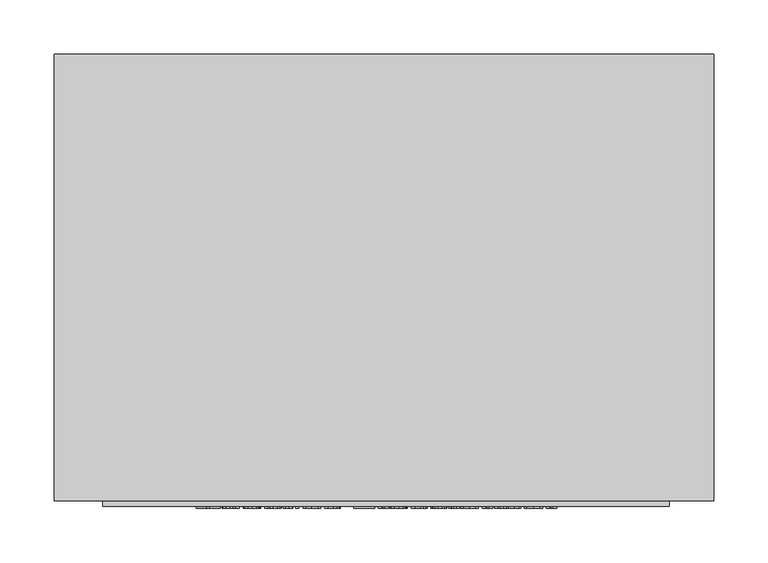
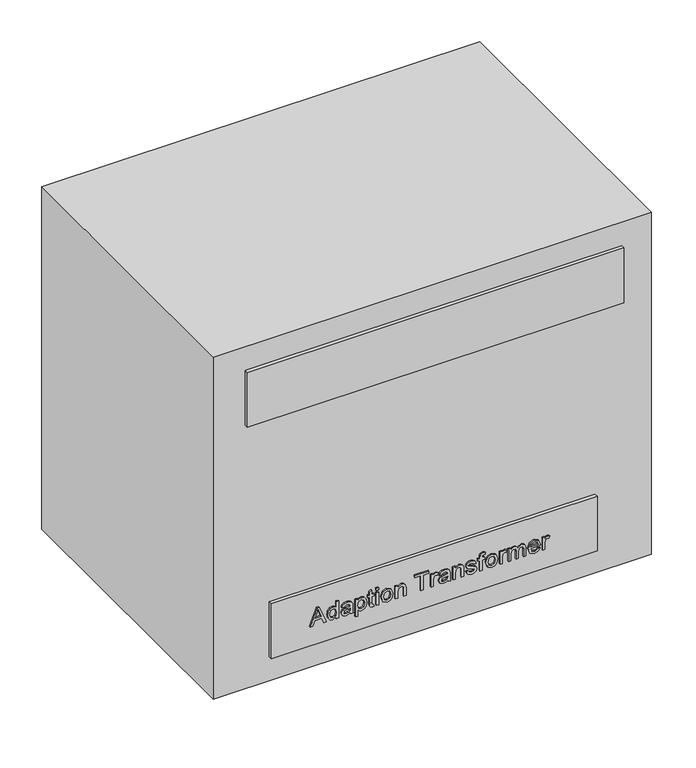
"""IFC4 building model written with IfcOpenShell, lengths in millimetres: proxy geometry, BIMHealth-Adaption_Transformer-LOD2A-v1 : BIMHealth-Adaption_Transformer-LOD2A-v1."""

from ifc_helpers import new_model, si_unit, point, frame, frame_2d, origin, origin_with_axes, place, context, project, spatial, polyline, circle_curve, trimmed, segment, composite_curve, outline, extrude, source, transform, mapped, element, save


def generic_models_28b9f46c(model_context):
    return source(origin(), model_context, "Body", "SweptSolid", [
        extrude(outline(polyline([(99.0474978, -172.4516852), (99.0474978, -169.2064929), (106.7398055, -166.3939929), (106.7398055, -156.2497621), (99.0474978, -153.4372621), (99.0474978, -150.1860602), (123.6628824, -160.0057718), (123.6628824, -162.6259641), (99.0474978, -172.4516852)]), holes=[polyline([(109.8167286, -165.2641852), (116.3972574, -162.8543294), (120.5859594, -161.3218775), (115.8684113, -159.5971179), (109.8167286, -157.3735602), (109.8167286, -165.2641852)])]), frame((0.0, -212.0, 0.0), z_axis=(0.0, 1.0, 0.0), x_axis=(0.0, 0.0, 1.0)), (0.0, 0.0, 1.0), 2.0),
        extrude(outline(polyline([(99.0474978, -136.1295698), (99.0474978, -133.0526468), (123.6628824, -133.0526468), (123.6628824, -136.1295698), (114.4922094, -136.1295698), (116.6706949, -138.1548102), (117.5090363, -140.9913487), (116.3371613, -144.9186323), (112.9657671, -147.5568535), (108.0679305, -148.4372621), (103.1730988, -147.4817333), (99.8527863, -144.7894256), (98.6628824, -140.9793294), (101.9501421, -136.1295698), (99.0474978, -136.1295698)]), holes=[polyline([(108.0799497, -145.3603391), (112.9026661, -144.0622621), (114.4321132, -140.8230794), (112.8395651, -137.4847381), (107.8455747, -136.1295698), (103.2452142, -137.4606996), (101.7398055, -140.6968775), (103.3173296, -143.9721179), (108.0799497, -145.3603391)])]), frame((0.0, -212.0, 0.0), z_axis=(0.0, 1.0, 0.0), x_axis=(0.0, 0.0, 1.0)), (0.0, 0.0, 1.0), 2.0),
        extrude(outline(polyline([(101.3551901, -116.8988006), (99.0474978, -116.1295698), (99.0474978, -113.0526468), (101.6346372, -113.6656275), (106.9801901, -113.8218775), (110.8083151, -113.8218775), (113.5006228, -113.9721179), (115.5889642, -114.9156275), (116.9621613, -117.0219977), (117.5090363, -120.7509641), (116.8900459, -124.8104593), (115.1292286, -127.4907477), (112.1244209, -128.8218775), (111.7398055, -125.7449544), (113.8401661, -124.2605794), (114.4321132, -121.1475987), (113.5426901, -117.7461564), (110.5859594, -116.9168294), (109.5282671, -122.2533679), (109.0655267, -124.9156275), (108.0559113, -127.0700746), (106.2890844, -128.6175506), (103.8551901, -129.2064929), (100.123219, -127.6469977), (98.6628824, -123.1788487), (99.2698536, -119.8825746), (101.3551901, -116.8988006)]), holes=[polyline([(107.0733392, -116.907815), (104.2578344, -117.4036083), (102.4759834, -119.4108198), (101.7398055, -122.5238006), (102.4068728, -125.2131035), (106.0667286, -124.5099785), (106.5655267, -121.8627429), (107.0733392, -116.907815)])]), frame((0.0, -212.0, 0.0), z_axis=(0.0, 1.0, 0.0), x_axis=(0.0, 0.0, 1.0)), (0.0, 0.0, 1.0), 2.0),
        extrude(outline(polyline([(92.1244209, -109.5911083), (92.1244209, -106.5141852), (101.451344, -106.5141852), (99.4531469, -104.564065), (98.6628824, -101.8867814), (99.8437719, -97.9955554), (103.2392046, -95.1770458), (108.2241805, -94.2064929), (112.9657671, -95.0658679), (116.3191324, -97.6139448), (117.5090363, -101.5141852), (116.6586757, -104.3867814), (114.107594, -106.5141852), (117.1244209, -106.5141852), (117.1244209, -109.5911083), (92.1244209, -109.5911083)]), holes=[polyline([(107.9417286, -106.5141852), (112.7704546, -105.0929112), (114.4321132, -101.8266852), (112.8696132, -98.6235602), (108.170094, -97.283416), (103.3083151, -98.6566131), (101.7398055, -101.9528871), (103.2542286, -105.1830554), (107.9417286, -106.5141852)])]), frame((0.0, -212.0, 0.0), z_axis=(0.0, 1.0, 0.0), x_axis=(0.0, 0.0, 1.0)), (0.0, 0.0, 1.0), 2.0),
        extrude(outline(polyline([(102.0613199, -85.6638246), (104.0955747, -87.283416), (114.0474978, -87.283416), (114.0474978, -84.2064929), (117.1244209, -84.2064929), (117.1244209, -87.283416), (123.326344, -87.283416), (121.5174497, -90.3603391), (117.1244209, -90.3603391), (117.1244209, -92.6680314), (114.0474978, -92.6680314), (114.0474978, -90.3603391), (104.0054305, -90.3603391), (100.513844, -89.9877429), (99.1736997, -88.7016852), (98.6628824, -86.1235602), (98.9573536, -83.8218775), (102.0613199, -85.6638246)])), frame((0.0, -212.0, 0.0), z_axis=(0.0, 1.0, 0.0), x_axis=(0.0, 0.0, 1.0)), (0.0, 0.0, 1.0), 2.0),
        extrude(outline(polyline([(-78.0526468, -212.0), (-81.1295698, -212.0), (-81.1295698, -210.0), (-78.0526468, -210.0), (-78.0526468, -212.0)])), frame((0.0, 0.0, 120.5859594), z_axis=(0.0, 0.0, 1.0), x_axis=(1.0, 0.0, 0.0)), (0.0, 0.0, 1.0), 3.0769231),
        extrude(outline(polyline([(-78.0526468, -212.0), (-81.1295698, -212.0), (-81.1295698, -210.0), (-78.0526468, -210.0), (-78.0526468, -212.0)])), frame((0.0, 0.0, 99.0474978), z_axis=(0.0, 0.0, 1.0), x_axis=(1.0, 0.0, 0.0)), (0.0, 0.0, 1.0), 18.0769231),
        extrude(outline(polyline([(108.0859594, -74.2064929), (101.0907671, -71.9739208), (98.6628824, -66.1235602), (99.7656469, -61.9558919), (102.8636036, -59.0502429), (108.3383632, -58.0526468), (115.0721372, -60.3092573), (117.5090363, -66.1235602), (115.5078344, -71.5442333), (108.0859594, -74.2064929)]), holes=[polyline([(108.091969, -71.1295698), (112.8545892, -69.705291), (114.4321132, -66.1235602), (112.8485796, -62.5628631), (108.1881228, -61.1295698), (103.3323536, -62.5538487), (101.7398055, -66.1235602), (103.3233392, -69.705291), (108.091969, -71.1295698)])]), frame((0.0, -212.0, 0.0), z_axis=(0.0, 1.0, 0.0), x_axis=(0.0, 0.0, 1.0)), (0.0, 0.0, 1.0), 2.0),
        extrude(outline(polyline([(99.0474978, -54.5911083), (99.0474978, -51.5141852), (108.638844, -51.5141852), (113.2241805, -50.11094), (114.4321132, -46.7725987), (113.8942526, -44.6602189), (112.4549497, -43.4072141), (109.732594, -43.0526468), (99.0474978, -43.0526468), (99.0474978, -39.9757237), (110.1472574, -39.9757237), (113.1220171, -40.1379833), (115.3846372, -41.0604593), (116.9230988, -43.0436323), (117.5090363, -45.9492814), (114.6003824, -51.5141852), (117.1244209, -51.5141852), (117.1244209, -54.5911083), (99.0474978, -54.5911083)])), frame((0.0, -212.0, 0.0), z_axis=(0.0, 1.0, 0.0), x_axis=(0.0, 0.0, 1.0)), (0.0, 0.0, 1.0), 2.0),
        extrude(outline(polyline([(99.0474978, -19.5911083), (99.0474978, -16.5141852), (120.5859594, -16.5141852), (120.5859594, -8.4372621), (123.6628824, -8.4372621), (123.6628824, -27.6680314), (120.5859594, -27.6680314), (120.5859594, -19.5911083), (99.0474978, -19.5911083)])), frame((0.0, -212.0, 0.0), z_axis=(0.0, 1.0, 0.0), x_axis=(0.0, 0.0, 1.0)), (0.0, 0.0, 1.0), 2.0),
        extrude(outline(polyline([(99.0474978, -5.3603391), (99.0474978, -2.283416), (108.5486997, -2.283416), (112.1424497, -1.7846179), (113.8251421, -0.6758439), (114.4321132, 1.0639398), (113.8011036, 3.2274013), (116.5595171, 4.2550456), (117.5090363, 1.1661032), (116.9140844, -0.7569737), (114.4501421, -2.6680314), (117.1244209, -2.6680314), (117.1244209, -5.3603391), (99.0474978, -5.3603391)])), frame((0.0, -212.0, 0.0), z_axis=(0.0, 1.0, 0.0), x_axis=(0.0, 0.0, 1.0)), (0.0, 0.0, 1.0), 2.0),
        extrude(outline(polyline([(101.3551901, 17.716584), (99.0474978, 18.4858148), (99.0474978, 21.5627379), (101.6346372, 20.9497571), (106.9801901, 20.7935071), (110.8083151, 20.7935071), (113.5006228, 20.6432667), (115.5889642, 19.6997571), (116.9621613, 17.5933869), (117.5090363, 13.8644206), (116.8900459, 9.8049254), (115.1292286, 7.1246369), (112.1244209, 5.7935071), (111.7398055, 8.8704302), (113.8401661, 10.3548052), (114.4321132, 13.4677859), (113.5426901, 16.8692282), (110.5859594, 17.6985552), (109.5282671, 12.3620167), (109.0655267, 9.6997571), (108.0559113, 7.54531), (106.2890844, 5.997834), (103.8551901, 5.4088917), (100.123219, 6.9683869), (98.6628824, 11.4365359), (99.2698536, 14.73281), (101.3551901, 17.716584)]), holes=[polyline([(107.0733392, 17.7075696), (104.2578344, 17.2117763), (102.4759834, 15.2045648), (101.7398055, 12.091584), (102.4068728, 9.4022811), (106.0667286, 10.1054061), (106.5655267, 12.7526417), (107.0733392, 17.7075696)])]), frame((0.0, -212.0, 0.0), z_axis=(0.0, 1.0, 0.0), x_axis=(0.0, 0.0, 1.0)), (0.0, 0.0, 1.0), 2.0),
        extrude(outline(polyline([(99.0474978, 25.0242763), (99.0474978, 28.1011994), (108.638844, 28.1011994), (113.2241805, 29.5044446), (114.4321132, 32.8427859), (113.8942526, 34.9551657), (112.4549497, 36.2081706), (109.732594, 36.5627379), (99.0474978, 36.5627379), (99.0474978, 39.6396609), (110.1472574, 39.6396609), (113.1220171, 39.4774013), (115.3846372, 38.5549254), (116.9230988, 36.5717523), (117.5090363, 33.6661032), (114.6003824, 28.1011994), (117.1244209, 28.1011994), (117.1244209, 25.0242763), (99.0474978, 25.0242763)])), frame((0.0, -212.0, 0.0), z_axis=(0.0, 1.0, 0.0), x_axis=(0.0, 0.0, 1.0)), (0.0, 0.0, 1.0), 2.0),
        extrude(outline(polyline([(104.4321132, 42.716584), (100.1172094, 45.0723532), (98.6628824, 50.4389398), (99.4170892, 54.2490359), (101.5535074, 56.8241561), (104.498219, 57.716584), (107.1724978, 56.9563677), (108.8131228, 54.8590119), (110.2614401, 50.3427859), (112.4910074, 46.1781225), (113.8491805, 47.0615359), (114.4321132, 50.0062475), (113.8221372, 52.7135792), (112.1244209, 53.8704302), (112.5090363, 56.9473532), (115.2704546, 55.8896609), (116.9050699, 53.5098532), (117.5090363, 49.7658629), (117.1334353, 47.1186273), (116.2229786, 45.1624975), (114.4711757, 43.654084), (112.1785074, 43.1011994), (109.6965363, 43.7893004), (107.9387238, 45.8115359), (106.4333151, 50.4449494), (105.5559113, 53.6120167), (104.1736997, 54.6396609), (102.466969, 53.6180263), (101.7398055, 50.4810071), (102.5330747, 47.2177859), (104.8167286, 45.7935071), (104.4321132, 42.716584)])), frame((0.0, -212.0, 0.0), z_axis=(0.0, 1.0, 0.0), x_axis=(0.0, 0.0, 1.0)), (0.0, 0.0, 1.0), 2.0),
        extrude(outline(polyline([(99.0474978, 61.9473532), (99.0474978, 65.0242763), (114.0474978, 65.0242763), (114.0474978, 68.4858148), (117.1244209, 68.4858148), (118.5547094, 65.0242763), (120.4597574, 65.592185), (120.9705747, 67.5302859), (120.826344, 69.3031225), (123.7109594, 69.7538436), (124.0474978, 66.9473532), (123.3443728, 63.8463917), (121.5114401, 62.2718725), (118.9453344, 61.9473532), (117.1244209, 61.9473532), (117.1244209, 59.2550456), (114.0474978, 59.2550456), (114.0474978, 61.9473532), (99.0474978, 61.9473532)])), frame((0.0, -212.0, 0.0), z_axis=(0.0, 1.0, 0.0), x_axis=(0.0, 0.0, 1.0)), (0.0, 0.0, 1.0), 2.0),
        extrude(outline(polyline([(108.0859594, 70.4088917), (101.0907671, 72.6414638), (98.6628824, 78.4918244), (99.7656469, 82.6594927), (102.8636036, 85.5651417), (108.3383632, 86.5627379), (115.0721372, 84.3061273), (117.5090363, 78.4918244), (115.5078344, 73.0711513), (108.0859594, 70.4088917)]), holes=[polyline([(108.091969, 73.4858148), (112.8545892, 74.9100936), (114.4321132, 78.4918244), (112.8485796, 82.0525215), (108.1881228, 83.4858148), (103.3323536, 82.0615359), (101.7398055, 78.4918244), (103.3233392, 74.9100936), (108.091969, 73.4858148)])]), frame((0.0, -212.0, 0.0), z_axis=(0.0, 1.0, 0.0), x_axis=(0.0, 0.0, 1.0)), (0.0, 0.0, 1.0), 2.0),
        extrude(outline(polyline([(99.0474978, 90.0242763), (99.0474978, 93.1011994), (108.5486997, 93.1011994), (112.1424497, 93.5999975), (113.8251421, 94.7087715), (114.4321132, 96.4485552), (113.8011036, 98.6120167), (116.5595171, 99.6396609), (117.5090363, 96.5507186), (116.9140844, 94.6276417), (114.4501421, 92.716584), (117.1244209, 92.716584), (117.1244209, 90.0242763), (99.0474978, 90.0242763)])), frame((0.0, -212.0, 0.0), z_axis=(0.0, 1.0, 0.0), x_axis=(0.0, 0.0, 1.0)), (0.0, 0.0, 1.0), 2.0),
        extrude(outline(polyline([(99.0474978, 101.5627379), (99.0474978, 104.6396609), (108.1640844, 104.6396609), (111.8359594, 105.1084109), (113.7710555, 106.622834), (114.4321132, 108.9004782), (113.4405267, 111.2352138), (110.4597574, 111.9473532), (99.0474978, 111.9473532), (99.0474978, 115.0242763), (109.2518247, 115.0242763), (113.2001421, 116.2292042), (114.4321132, 119.2550456), (113.951344, 121.0128581), (112.6863199, 122.0465119), (110.1172094, 122.3319686), (99.0474978, 122.3319686), (99.0474978, 125.4088917), (111.4393247, 125.4088917), (116.0216565, 123.9996369), (117.5090363, 119.9761994), (113.9333151, 114.5435071), (116.5685315, 112.8487956), (117.5090363, 109.7658629), (116.5865603, 106.7550456), (114.1496613, 104.6396609), (117.1244209, 104.6396609), (117.1244209, 101.5627379), (99.0474978, 101.5627379)])), frame((0.0, -212.0, 0.0), z_axis=(0.0, 1.0, 0.0), x_axis=(0.0, 0.0, 1.0)), (0.0, 0.0, 1.0), 2.0),
        extrude(outline(polyline([(104.4321132, 142.6805263), (102.3828344, 140.6973532), (101.7398055, 137.6805263), (103.1280267, 133.717185), (107.1244209, 131.9473532), (107.9537478, 145.7935071), (115.0030267, 143.4587715), (117.5090363, 137.4461513), (114.9970171, 131.2562475), (107.935719, 128.8704302), (101.0997815, 131.232209), (98.6628824, 137.6204302), (100.0751421, 142.8758388), (104.0474978, 145.6973532), (104.4321132, 142.6805263)]), holes=[polyline([(110.201344, 131.9473532), (113.2812719, 133.6450696), (114.4321132, 137.4341321), (112.9898055, 141.4846129), (110.201344, 142.716584), (110.201344, 131.9473532)])]), frame((0.0, -212.0, 0.0), z_axis=(0.0, 1.0, 0.0), x_axis=(0.0, 0.0, 1.0)), (0.0, 0.0, 1.0), 2.0),
        extrude(outline(polyline([(99.0474978, 148.8704302), (99.0474978, 151.9473532), (108.5486997, 151.9473532), (112.1424497, 152.4461513), (113.8251421, 153.5549254), (114.4321132, 155.294709), (113.8011036, 157.4581706), (116.5595171, 158.4858148), (117.5090363, 155.3968725), (116.9140844, 153.4737956), (114.4501421, 151.5627379), (117.1244209, 151.5627379), (117.1244209, 148.8704302), (99.0474978, 148.8704302)])), frame((0.0, -212.0, 0.0), z_axis=(0.0, 1.0, 0.0), x_axis=(0.0, 0.0, 1.0)), (0.0, 0.0, 1.0), 2.0),
        extrude(outline(polyline([(225.0, -210.0), (-225.0, -210.0), (-225.0, -205.0), (225.0, -205.0), (225.0, -210.0)])), frame((0.0, 0.0, 70.2172768), z_axis=(0.0, 0.0, 1.0), x_axis=(1.0, 0.0, 0.0)), (0.0, 0.0, 1.0), 80.0),
        extrude(outline(polyline([(262.0116167, -210.0), (-257.9883833, -210.0), (-257.9883833, -205.0), (262.0116167, -205.0), (262.0116167, -210.0)])), frame((0.0, 0.0, 419.7827232), z_axis=(0.0, 0.0, 1.0), x_axis=(1.0, 0.0, 0.0)), (0.0, 0.0, 1.0), 80.0),
        extrude(outline(composite_curve([segment(trimmed(circle_curve(frame_2d((-235.4918267, 150.488841)), 10.0), [point((-245.4918267, 150.488841))], [point((-225.4918267, 150.488841))], False, "CARTESIAN"), True, "CONTINUOUS"), segment(trimmed(circle_curve(frame_2d((-235.4918267, 150.488841)), 10.0), [point((-225.4918267, 150.488841))], [point((-245.4918267, 150.488841))], False, "CARTESIAN"), True, "CONTINUOUS")], self_intersect=False)), origin_with_axes(), (0.0, 0.0, 1.0), 35.0),
        extrude(outline(composite_curve([segment(trimmed(circle_curve(frame_2d((235.4918267, 150.488841)), 10.0), [point((245.4918267, 150.488841))], [point((225.4918267, 150.488841))], False, "CARTESIAN"), True, "CONTINUOUS"), segment(trimmed(circle_curve(frame_2d((235.4918267, 150.488841)), 10.0), [point((225.4918267, 150.488841))], [point((245.4918267, 150.488841))], False, "CARTESIAN"), True, "CONTINUOUS")], self_intersect=False)), origin_with_axes(), (0.0, 0.0, 1.0), 35.0),
        extrude(outline(composite_curve([segment(trimmed(circle_curve(frame_2d((-235.4918267, -150.488841)), 10.0), [point((-245.4918267, -150.488841))], [point((-225.4918267, -150.488841))], False, "CARTESIAN"), True, "CONTINUOUS"), segment(trimmed(circle_curve(frame_2d((-235.4918267, -150.488841)), 10.0), [point((-225.4918267, -150.488841))], [point((-245.4918267, -150.488841))], False, "CARTESIAN"), True, "CONTINUOUS")], self_intersect=False)), origin_with_axes(), (0.0, 0.0, 1.0), 35.0),
        extrude(outline(composite_curve([segment(trimmed(circle_curve(frame_2d((235.4918267, -150.488841)), 10.0), [point((245.4918267, -150.488841))], [point((225.4918267, -150.488841))], False, "CARTESIAN"), True, "CONTINUOUS"), segment(trimmed(circle_curve(frame_2d((235.4918267, -150.488841)), 10.0), [point((225.4918267, -150.488841))], [point((245.4918267, -150.488841))], False, "CARTESIAN"), True, "CONTINUOUS")], self_intersect=False)), origin_with_axes(), (0.0, 0.0, 1.0), 35.0),
        extrude(outline(polyline([(302.5, -205.0), (-302.5, -205.0), (-302.5, 205.0), (302.5, 205.0), (302.5, -205.0)])), frame((0.0, 0.0, 35.0), z_axis=(0.0, 0.0, 1.0), x_axis=(1.0, 0.0, 0.0)), (0.0, 0.0, 1.0), 500.0),
    ])


if __name__ == "__main__":
    model = new_model("IFC4")
    model_context = context("Model", 3, world=origin())
    ifc_project = project(units=[si_unit("LENGTHUNIT", "METRE", prefix="MILLI")], contexts=[model_context])
    site = spatial("IfcSite", under=ifc_project)
    building = spatial("IfcBuilding", under=site)
    placement = place(None, origin())
    generic_models_shape = generic_models_28b9f46c(model_context)
    element("IfcBuildingElementProxy", 1, Name="BIMHealth-Adaption_Transformer-LOD2A-v1 : BIMHealth-Adaption_Transformer-LOD2A-v1", ObjectType="BIMHealth-Adaption_Transformer-LOD2A-v1 : BIMHealth-Adaption_Transformer-LOD2A-v1", at=placement, inside=building, context=model_context, shape_type="MappedRepresentation", body=[
        mapped(generic_models_shape, transform((0.0, 0.0, 0.0), x_axis=(1.0, 0.0, 0.0), y_axis=(0.0, 1.0, 0.0), z_axis=(0.0, 0.0, 1.0))),
    ])
    save(model, "model.ifc")
